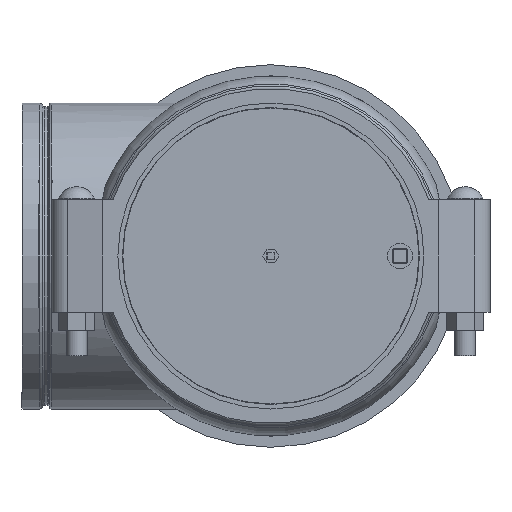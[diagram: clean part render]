
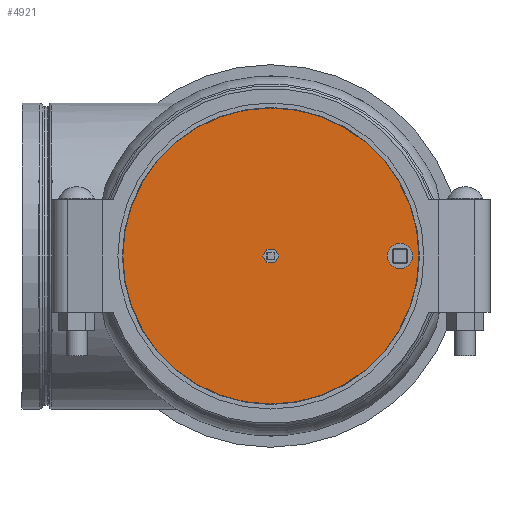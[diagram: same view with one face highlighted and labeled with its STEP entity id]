
A CAD part, left-side view. The second image highlights one B-rep face of the part: STEP entity #4921.
In plain terms, the highlighted planar face has unit normal (-1, 0, 0).
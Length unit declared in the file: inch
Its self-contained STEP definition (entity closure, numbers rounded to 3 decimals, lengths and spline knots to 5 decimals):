
#136=FACE_BOUND('',#1658,.T.);
#137=FACE_BOUND('',#1659,.T.);
#196=PLANE('',#5508);
#539=CIRCLE('',#5507,0.525);
#540=CIRCLE('',#5509,6.16892);
#541=CIRCLE('',#5510,6.16892);
#830=LINE('',#8274,#1053);
#833=LINE('',#8279,#1056);
#835=LINE('',#8283,#1058);
#837=LINE('',#8287,#1060);
#839=LINE('',#8291,#1062);
#841=LINE('',#8294,#1064);
#1053=VECTOR('',#6611,0.3937);
#1056=VECTOR('',#6616,0.3937);
#1058=VECTOR('',#6620,0.3937);
#1060=VECTOR('',#6624,0.3937);
#1062=VECTOR('',#6628,0.3937);
#1064=VECTOR('',#6632,0.3937);
#1398=FACE_OUTER_BOUND('',#1657,.T.);
#1657=EDGE_LOOP('',(#3710,#3711));
#1658=EDGE_LOOP('',(#3712,#3713,#3714,#3715,#3716,#3717));
#1659=EDGE_LOOP('',(#3718));
#2048=VERTEX_POINT('',#8272);
#2049=VERTEX_POINT('',#8273);
#2050=VERTEX_POINT('',#8278);
#2051=VERTEX_POINT('',#8282);
#2052=VERTEX_POINT('',#8286);
#2053=VERTEX_POINT('',#8290);
#2054=VERTEX_POINT('',#8296);
#2055=VERTEX_POINT('',#8300);
#2056=VERTEX_POINT('',#8301);
#2650=EDGE_CURVE('',#2048,#2049,#830,.T.);
#2653=EDGE_CURVE('',#2049,#2050,#833,.T.);
#2655=EDGE_CURVE('',#2050,#2051,#835,.T.);
#2657=EDGE_CURVE('',#2051,#2052,#837,.T.);
#2659=EDGE_CURVE('',#2052,#2053,#839,.T.);
#2661=EDGE_CURVE('',#2053,#2048,#841,.T.);
#2663=EDGE_CURVE('',#2054,#2054,#539,.T.);
#2664=EDGE_CURVE('',#2055,#2056,#540,.T.);
#2665=EDGE_CURVE('',#2056,#2055,#541,.T.);
#3710=ORIENTED_EDGE('',*,*,#2664,.F.);
#3711=ORIENTED_EDGE('',*,*,#2665,.F.);
#3712=ORIENTED_EDGE('',*,*,#2650,.T.);
#3713=ORIENTED_EDGE('',*,*,#2653,.T.);
#3714=ORIENTED_EDGE('',*,*,#2655,.T.);
#3715=ORIENTED_EDGE('',*,*,#2657,.T.);
#3716=ORIENTED_EDGE('',*,*,#2659,.T.);
#3717=ORIENTED_EDGE('',*,*,#2661,.T.);
#3718=ORIENTED_EDGE('',*,*,#2663,.T.);
#4921=ADVANCED_FACE('',(#1398,#136,#137),#196,.T.);
#5507=AXIS2_PLACEMENT_3D('',#8298,#6636,#6637);
#5508=AXIS2_PLACEMENT_3D('',#8299,#6638,#6639);
#5509=AXIS2_PLACEMENT_3D('',#8302,#6640,#6641);
#5510=AXIS2_PLACEMENT_3D('',#8303,#6642,#6643);
#6611=DIRECTION('',(0.,-1.,0.));
#6616=DIRECTION('',(0.,-0.5,-0.866));
#6620=DIRECTION('',(0.,0.5,-0.866));
#6624=DIRECTION('',(0.,1.,0.));
#6628=DIRECTION('',(0.,0.5,0.866));
#6632=DIRECTION('',(0.,-0.5,0.866));
#6636=DIRECTION('center_axis',(1.,0.,0.));
#6637=DIRECTION('ref_axis',(0.,0.,-1.));
#6638=DIRECTION('center_axis',(-1.,0.,0.));
#6639=DIRECTION('ref_axis',(0.,0.,1.));
#6640=DIRECTION('center_axis',(1.,0.,0.));
#6641=DIRECTION('ref_axis',(0.,0.,-1.));
#6642=DIRECTION('center_axis',(1.,0.,0.));
#6643=DIRECTION('ref_axis',(0.,0.,-1.));
#8272=CARTESIAN_POINT('',(-0.4915,0.16599,0.2875));
#8273=CARTESIAN_POINT('',(-0.4915,-0.16599,0.2875));
#8274=CARTESIAN_POINT('',(-0.4915,3.00147,0.2875));
#8278=CARTESIAN_POINT('',(-0.4915,-0.33198,0.));
#8279=CARTESIAN_POINT('',(-0.4915,0.48064,1.40749));
#8282=CARTESIAN_POINT('',(-0.4915,-0.16599,-0.2875));
#8283=CARTESIAN_POINT('',(-0.4915,0.56363,-1.55124));
#8286=CARTESIAN_POINT('',(-0.4915,0.16599,-0.2875));
#8287=CARTESIAN_POINT('',(-0.4915,3.16745,-0.2875));
#8290=CARTESIAN_POINT('',(-0.4915,0.33198,0.));
#8291=CARTESIAN_POINT('',(-0.4915,1.06159,1.26374));
#8294=CARTESIAN_POINT('',(-0.4915,0.9786,-1.11999));
#8296=CARTESIAN_POINT('',(-0.4915,-5.38,0.525));
#8298=CARTESIAN_POINT('Origin',(-0.4915,-5.38,0.));
#8299=CARTESIAN_POINT('Origin',(-0.4915,6.16892,0.));
#8300=CARTESIAN_POINT('',(-0.4915,6.16892,0.));
#8301=CARTESIAN_POINT('',(-0.4915,-6.16892,0.));
#8302=CARTESIAN_POINT('Origin',(-0.4915,0.,0.));
#8303=CARTESIAN_POINT('Origin',(-0.4915,0.,0.));
